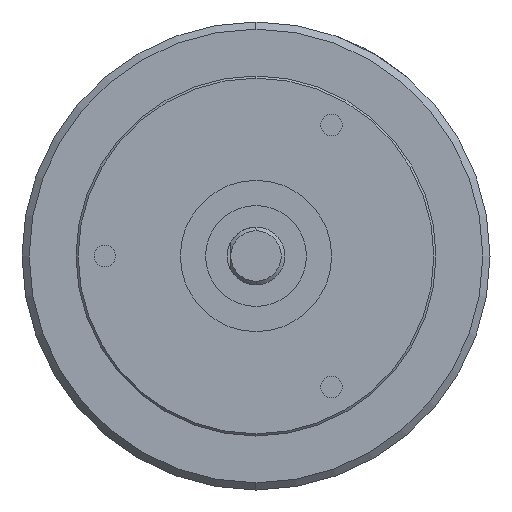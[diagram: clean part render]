
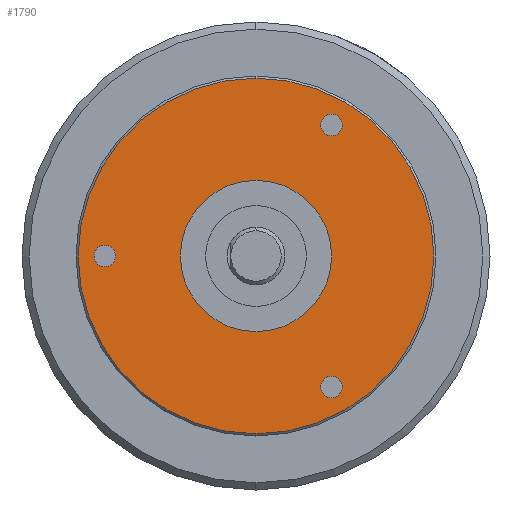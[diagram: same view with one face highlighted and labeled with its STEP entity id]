
A CAD part, left-side view. The second image highlights one B-rep face of the part: STEP entity #1790.
In plain terms, the highlighted planar face has unit normal (-1, 0, 0).
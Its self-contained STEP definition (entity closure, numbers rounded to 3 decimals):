
#23 = DIRECTION ( 'NONE',  ( -1., 0., 0. ) ) ;
#30 = AXIS2_PLACEMENT_3D ( 'NONE', #1315, #3093, #1270 ) ;
#38 = PLANE ( 'NONE',  #244 ) ;
#101 = CARTESIAN_POINT ( 'NONE',  ( 0., 0., 10.5 ) ) ;
#127 = VERTEX_POINT ( 'NONE', #3230 ) ;
#182 = CARTESIAN_POINT ( 'NONE',  ( 0., 0., -10.5 ) ) ;
#244 = AXIS2_PLACEMENT_3D ( 'NONE', #3131, #1033, #1658 ) ;
#247 = DIRECTION ( 'NONE',  ( 1., 0., 0. ) ) ;
#256 = ORIENTED_EDGE ( 'NONE', *, *, #1781, .T. ) ;
#293 = FACE_BOUND ( 'NONE', #2750, .T. ) ;
#310 = ORIENTED_EDGE ( 'NONE', *, *, #1081, .T. ) ;
#335 = CARTESIAN_POINT ( 'NONE',  ( 0., 21., -1.5 ) ) ;
#412 = CARTESIAN_POINT ( 'NONE',  ( 0., 21., 0. ) ) ;
#427 = CARTESIAN_POINT ( 'NONE',  ( 0., -10.5, 19.687 ) ) ;
#433 = DIRECTION ( 'NONE',  ( 0., 0., -1. ) ) ;
#489 = DIRECTION ( 'NONE',  ( 1., 0., 0. ) ) ;
#503 = ORIENTED_EDGE ( 'NONE', *, *, #1126, .T. ) ;
#612 = EDGE_CURVE ( 'NONE', #2985, #2255, #2563, .T. ) ;
#619 = AXIS2_PLACEMENT_3D ( 'NONE', #412, #702, #433 ) ;
#702 = DIRECTION ( 'NONE',  ( 1., 0., 0. ) ) ;
#740 = DIRECTION ( 'NONE',  ( 1., 0., 0. ) ) ;
#847 = AXIS2_PLACEMENT_3D ( 'NONE', #2039, #2294, #1765 ) ;
#862 = AXIS2_PLACEMENT_3D ( 'NONE', #2711, #908, #2495 ) ;
#893 = CIRCLE ( 'NONE', #1276, 1.5 ) ;
#902 = VERTEX_POINT ( 'NONE', #1907 ) ;
#908 = DIRECTION ( 'NONE',  ( 1., 0., 0. ) ) ;
#934 = VERTEX_POINT ( 'NONE', #101 ) ;
#958 = AXIS2_PLACEMENT_3D ( 'NONE', #1785, #247, #1255 ) ;
#960 = VERTEX_POINT ( 'NONE', #335 ) ;
#973 = DIRECTION ( 'NONE',  ( 1., 0., 0. ) ) ;
#987 = EDGE_CURVE ( 'NONE', #1050, #934, #2179, .T. ) ;
#1001 = ORIENTED_EDGE ( 'NONE', *, *, #2178, .T. ) ;
#1033 = DIRECTION ( 'NONE',  ( -1., 0., 0. ) ) ;
#1050 = VERTEX_POINT ( 'NONE', #182 ) ;
#1066 = EDGE_CURVE ( 'NONE', #902, #960, #2474, .T. ) ;
#1081 = EDGE_CURVE ( 'NONE', #2532, #2241, #893, .T. ) ;
#1091 = ORIENTED_EDGE ( 'NONE', *, *, #1066, .T. ) ;
#1096 = AXIS2_PLACEMENT_3D ( 'NONE', #1304, #23, #2626 ) ;
#1126 = EDGE_CURVE ( 'NONE', #934, #1050, #1329, .T. ) ;
#1166 = CIRCLE ( 'NONE', #958, 1.5 ) ;
#1229 = EDGE_CURVE ( 'NONE', #3298, #127, #1166, .T. ) ;
#1255 = DIRECTION ( 'NONE',  ( 0., 0., -1. ) ) ;
#1270 = DIRECTION ( 'NONE',  ( 0., 0., -1. ) ) ;
#1276 = AXIS2_PLACEMENT_3D ( 'NONE', #2267, #973, #1753 ) ;
#1280 = ORIENTED_EDGE ( 'NONE', *, *, #612, .T. ) ;
#1304 = CARTESIAN_POINT ( 'NONE',  ( 0., 0., 0. ) ) ;
#1315 = CARTESIAN_POINT ( 'NONE',  ( 0., 0., 0. ) ) ;
#1322 = FACE_BOUND ( 'NONE', #2256, .T. ) ;
#1329 = CIRCLE ( 'NONE', #30, 10.5 ) ;
#1384 = ORIENTED_EDGE ( 'NONE', *, *, #2941, .T. ) ;
#1474 = CARTESIAN_POINT ( 'NONE',  ( 0., 0., -24.7 ) ) ;
#1484 = ORIENTED_EDGE ( 'NONE', *, *, #3306, .T. ) ;
#1530 = ORIENTED_EDGE ( 'NONE', *, *, #987, .T. ) ;
#1550 = FACE_BOUND ( 'NONE', #3118, .T. ) ;
#1629 = AXIS2_PLACEMENT_3D ( 'NONE', #1775, #489, #2470 ) ;
#1658 = DIRECTION ( 'NONE',  ( 0., 0., 1. ) ) ;
#1753 = DIRECTION ( 'NONE',  ( 0., 0., -1. ) ) ;
#1765 = DIRECTION ( 'NONE',  ( 0., 0., -1. ) ) ;
#1775 = CARTESIAN_POINT ( 'NONE',  ( 0., -10.5, 18.187 ) ) ;
#1781 = EDGE_CURVE ( 'NONE', #2255, #2985, #2457, .T. ) ;
#1785 = CARTESIAN_POINT ( 'NONE',  ( 0., -10.5, -18.187 ) ) ;
#1790 = ADVANCED_FACE ( 'NONE', ( #293, #2350, #1550, #1322, #2364 ), #38, .T. ) ;
#1830 = CARTESIAN_POINT ( 'NONE',  ( 0., 0., 0. ) ) ;
#1907 = CARTESIAN_POINT ( 'NONE',  ( 0., 21., 1.5 ) ) ;
#1969 = CARTESIAN_POINT ( 'NONE',  ( 0., 0., 0. ) ) ;
#2014 = CARTESIAN_POINT ( 'NONE',  ( 0., -10.5, -16.687 ) ) ;
#2039 = CARTESIAN_POINT ( 'NONE',  ( 0., -10.5, -18.187 ) ) ;
#2115 = DIRECTION ( 'NONE',  ( -1., 0., 0. ) ) ;
#2178 = EDGE_CURVE ( 'NONE', #960, #902, #2333, .T. ) ;
#2179 = CIRCLE ( 'NONE', #2947, 10.5 ) ;
#2241 = VERTEX_POINT ( 'NONE', #427 ) ;
#2255 = VERTEX_POINT ( 'NONE', #1474 ) ;
#2256 = EDGE_LOOP ( 'NONE', ( #503, #1530 ) ) ;
#2267 = CARTESIAN_POINT ( 'NONE',  ( 0., -10.5, 18.187 ) ) ;
#2272 = CIRCLE ( 'NONE', #847, 1.5 ) ;
#2294 = DIRECTION ( 'NONE',  ( 1., 0., 0. ) ) ;
#2333 = CIRCLE ( 'NONE', #862, 1.5 ) ;
#2350 = FACE_BOUND ( 'NONE', #2822, .T. ) ;
#2364 = FACE_OUTER_BOUND ( 'NONE', #3002, .T. ) ;
#2457 = CIRCLE ( 'NONE', #1096, 24.7 ) ;
#2464 = CARTESIAN_POINT ( 'NONE',  ( 0., -10.5, 16.687 ) ) ;
#2470 = DIRECTION ( 'NONE',  ( 0., 0., -1. ) ) ;
#2474 = CIRCLE ( 'NONE', #619, 1.5 ) ;
#2495 = DIRECTION ( 'NONE',  ( 0., 0., -1. ) ) ;
#2502 = DIRECTION ( 'NONE',  ( 0., 0., -1. ) ) ;
#2527 = ORIENTED_EDGE ( 'NONE', *, *, #1229, .T. ) ;
#2532 = VERTEX_POINT ( 'NONE', #2464 ) ;
#2563 = CIRCLE ( 'NONE', #3326, 24.7 ) ;
#2613 = CARTESIAN_POINT ( 'NONE',  ( 0., 0., 24.7 ) ) ;
#2626 = DIRECTION ( 'NONE',  ( 0., 0., 1. ) ) ;
#2711 = CARTESIAN_POINT ( 'NONE',  ( 0., 21., 0. ) ) ;
#2750 = EDGE_LOOP ( 'NONE', ( #1091, #1001 ) ) ;
#2822 = EDGE_LOOP ( 'NONE', ( #2527, #1384 ) ) ;
#2881 = DIRECTION ( 'NONE',  ( 0., 0., 1. ) ) ;
#2941 = EDGE_CURVE ( 'NONE', #127, #3298, #2272, .T. ) ;
#2947 = AXIS2_PLACEMENT_3D ( 'NONE', #1969, #740, #2502 ) ;
#2985 = VERTEX_POINT ( 'NONE', #2613 ) ;
#3002 = EDGE_LOOP ( 'NONE', ( #256, #1280 ) ) ;
#3093 = DIRECTION ( 'NONE',  ( 1., 0., 0. ) ) ;
#3118 = EDGE_LOOP ( 'NONE', ( #1484, #310 ) ) ;
#3121 = CIRCLE ( 'NONE', #1629, 1.5 ) ;
#3131 = CARTESIAN_POINT ( 'NONE',  ( 0., 0., 0. ) ) ;
#3230 = CARTESIAN_POINT ( 'NONE',  ( 0., -10.5, -19.687 ) ) ;
#3298 = VERTEX_POINT ( 'NONE', #2014 ) ;
#3306 = EDGE_CURVE ( 'NONE', #2241, #2532, #3121, .T. ) ;
#3326 = AXIS2_PLACEMENT_3D ( 'NONE', #1830, #2115, #2881 ) ;
